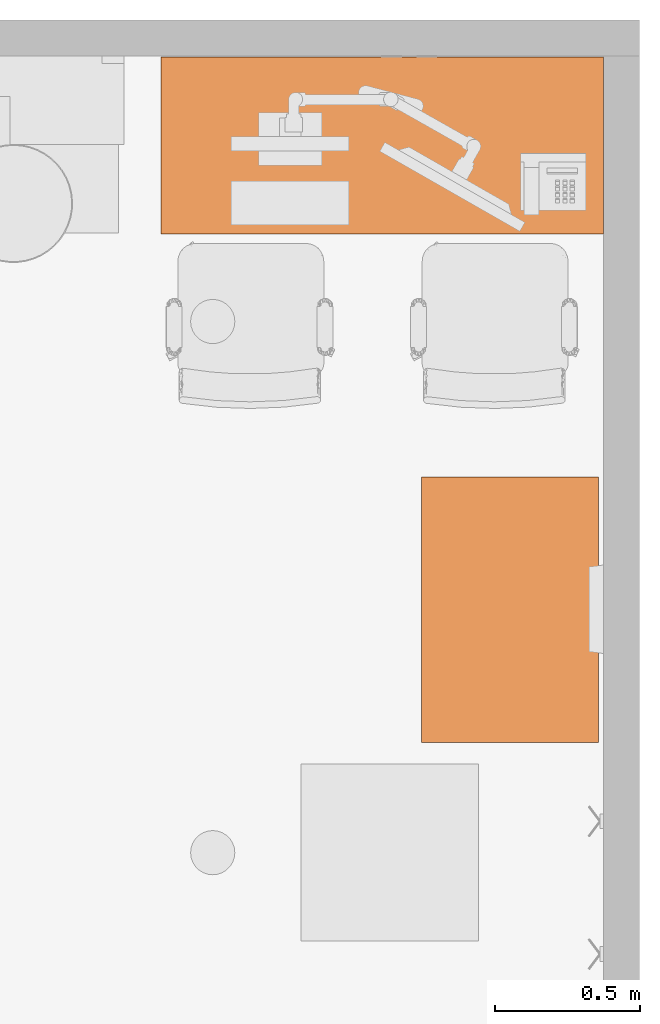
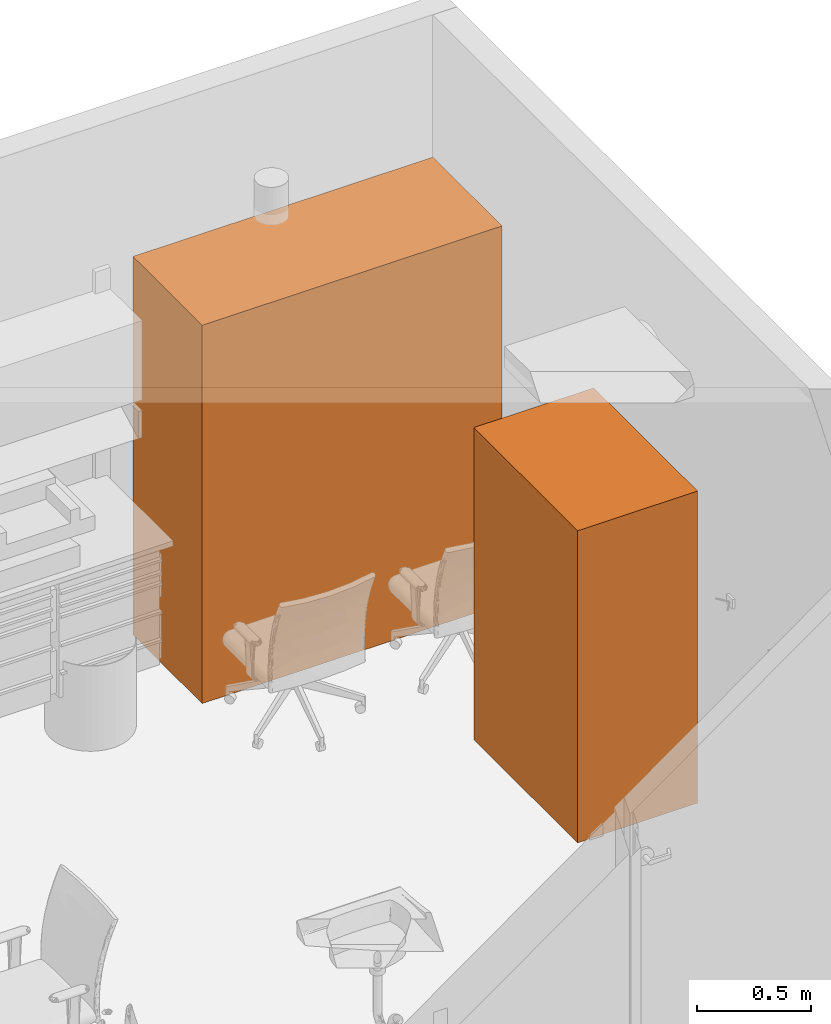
# One storey, part 6 of 15: 2 proxies.
"""IFC2X3 building model written with IfcOpenShell, lengths in feet."""

from ifc_helpers import new_model, entity, si_unit, converted_unit, derived_unit, direction, frame, origin, origin_2d_with_axis, place, context, subcontext, project, spatial, rectangle, extrude, face_set, surface_model, source, transform, mapped, material, type_object, type_shapes, element, save


model = new_model("IFC2X3")

# Units and contexts
model_context = context("Model", 3, precision=0.0001, world=origin(), true_north=direction((6.12303176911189e-17, 1.0)))
body_context = subcontext(model_context, "Body", "Model", "MODEL_VIEW")
ifc_project = project(units=[converted_unit("LENGTHUNIT", "FOOT", entity("IfcRatioMeasure", 0.3048), si_unit("LENGTHUNIT", "METRE"), dimensions=[1, 0, 0, 0, 0, 0, 0]), converted_unit("AREAUNIT", "SQUARE FOOT", entity("IfcRatioMeasure", 0.09290304), si_unit("AREAUNIT", "SQUARE_METRE"), dimensions=[2, 0, 0, 0, 0, 0, 0]), converted_unit("VOLUMEUNIT", "CUBIC FOOT", entity("IfcRatioMeasure", 0.028316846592), si_unit("VOLUMEUNIT", "CUBIC_METRE"), dimensions=[3, 0, 0, 0, 0, 0, 0]), converted_unit("PLANEANGLEUNIT", "DEGREE", entity("IfcRatioMeasure", 0.0174532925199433), si_unit("PLANEANGLEUNIT", "RADIAN"), dimensions=[0, 0, 0, 0, 0, 0, 0]), si_unit("MASSUNIT", "GRAM", prefix="KILO"), derived_unit("MASSDENSITYUNIT", [(si_unit("MASSUNIT", "GRAM", prefix="KILO"), 1), (si_unit("LENGTHUNIT", "METRE"), -3)]), si_unit("TIMEUNIT", "SECOND"), si_unit("FREQUENCYUNIT", "HERTZ"), si_unit("THERMODYNAMICTEMPERATUREUNIT", "DEGREE_CELSIUS"), derived_unit("THERMALTRANSMITTANCEUNIT", [(si_unit("MASSUNIT", "GRAM", prefix="KILO"), 1), (si_unit("THERMODYNAMICTEMPERATUREUNIT", "KELVIN"), -1), (si_unit("TIMEUNIT", "SECOND"), -3)]), derived_unit("VOLUMETRICFLOWRATEUNIT", [(si_unit("LENGTHUNIT", "METRE"), 3), (si_unit("TIMEUNIT", "SECOND"), -1)]), si_unit("ELECTRICCURRENTUNIT", "AMPERE"), si_unit("ELECTRICVOLTAGEUNIT", "VOLT"), si_unit("POWERUNIT", "WATT"), si_unit("FORCEUNIT", "NEWTON"), si_unit("ILLUMINANCEUNIT", "LUX"), si_unit("LUMINOUSFLUXUNIT", "LUMEN"), si_unit("LUMINOUSINTENSITYUNIT", "CANDELA"), derived_unit("USERDEFINED", [(si_unit("MASSUNIT", "GRAM", prefix="KILO"), -1), (si_unit("LENGTHUNIT", "METRE"), -2), (si_unit("TIMEUNIT", "SECOND"), 3), (si_unit("LUMINOUSFLUXUNIT", "LUMEN"), 1)]), derived_unit("LINEARVELOCITYUNIT", [(si_unit("LENGTHUNIT", "METRE"), 1), (si_unit("TIMEUNIT", "SECOND"), -1)]), si_unit("PRESSUREUNIT", "PASCAL"), derived_unit("USERDEFINED", [(si_unit("LENGTHUNIT", "METRE"), -2), (si_unit("MASSUNIT", "GRAM", prefix="KILO"), 1), (si_unit("TIMEUNIT", "SECOND"), -2)])], contexts=[model_context])

# Site, building, storey, space
site_placement = place(None, origin())
site = spatial("IfcSite", under=ifc_project, at=site_placement, Name="Default", CompositionType="ELEMENT")
building_placement = place(site_placement, origin())
building = spatial("IfcBuilding", under=site, at=building_placement, Name="EYE CLINIC:  OPTHALMOLOGY AND OPTOMETRY SERVICES (Ch. 233)", CompositionType="ELEMENT")
storey_placement = place(building_placement, origin())
storey = spatial("IfcBuildingStorey", under=building, at=storey_placement, Name="DATUM", CompositionType="ELEMENT", Elevation=0.0)
space_placement = place(storey_placement, origin())
space = spatial("IfcSpace", under=storey, at=space_placement, Name="(OPLV2)", CompositionType="ELEMENT", InteriorOrExteriorSpace="INTERNAL")

# Proxies
ifc_material = material(Name="EquipSpace")
building_element_proxy_type_1 = type_object("IfcBuildingElementProxyType", Name="E0214 - Worksurface, with Overhead Cab, Wall Mtd, 60 W (1)", PredefinedType="NOTDEFINED", material=ifc_material)
shared_shape_1 = source(origin(), body_context, "Body", "SurfaceModel", [
    surface_model("IfcFaceBasedSurfaceModel", [(2.41666666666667, 0.833333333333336, 2.88682705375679), (2.41666666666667, 0.831483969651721, 2.87277974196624), (2.41666666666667, 0.826061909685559, 2.85968973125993), (2.41666666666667, 0.817436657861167, 2.84844908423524), (2.41666666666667, 0.806196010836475, 2.83982383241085), (2.41666666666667, 0.793106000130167, 2.83440177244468), (2.41666666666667, 0.779058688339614, 2.83255240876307), (2.41666666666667, -0.583333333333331, 2.83255240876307), (2.41666666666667, -0.604901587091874, 2.82971289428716), (2.41666666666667, -0.624999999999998, 2.82138785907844), (2.41666666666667, -0.64225889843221, 2.80814464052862), (2.41666666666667, -0.655502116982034, 2.7908857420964), (2.41666666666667, -0.663827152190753, 2.77078732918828), (2.41666666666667, -0.666666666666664, 2.74921907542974), (2.41666666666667, -0.666666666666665, 2.14505240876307), (2.41666666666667, -0.671635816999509, 2.10730796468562), (2.41666666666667, -0.686204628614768, 2.0721357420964), (2.41666666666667, -0.70938026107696, 2.04193266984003), (2.41666666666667, -0.739583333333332, 2.01875703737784), (2.41666666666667, -0.774755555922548, 2.00418822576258), (2.41666666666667, -0.812499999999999, 1.99921907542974), (2.41666666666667, -0.916666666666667, 1.99921907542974), (2.41666666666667, -0.916666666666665, 2.91588574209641), (2.41666666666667, 0.833333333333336, 2.9158857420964), (2.5, -0.686204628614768, 2.0721357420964), (2.5, -0.671635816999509, 2.10730796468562), (2.5, -0.666666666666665, 2.14505240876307), (2.5, -0.666666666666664, 2.74921907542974), (2.5, -0.663827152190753, 2.77078732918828), (2.5, -0.655502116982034, 2.7908857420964), (2.5, -0.64225889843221, 2.80814464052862), (2.5, -0.624999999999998, 2.82138785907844), (2.5, -0.604901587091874, 2.82971289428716), (2.5, -0.583333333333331, 2.83255240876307), (2.5, 0.779058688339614, 2.83255240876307), (2.5, 0.793106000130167, 2.83440177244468), (2.5, 0.806196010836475, 2.83982383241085), (2.5, 0.817436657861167, 2.84844908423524), (2.5, 0.826061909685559, 2.85968973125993), (2.5, 0.831483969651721, 2.87277974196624), (2.5, 0.833333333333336, 2.88682705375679), (2.5, 0.833333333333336, 2.9158857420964), (2.5, -0.916666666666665, 2.91588574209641), (2.5, -0.916666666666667, 1.99921907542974), (2.5, -0.812499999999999, 1.99921907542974), (2.5, -0.774755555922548, 2.00418822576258), (2.5, -0.739583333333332, 2.01875703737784), (2.5, -0.70938026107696, 2.04193266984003), (-2.41666666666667, -0.686204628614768, 2.0721357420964), (-2.41666666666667, -0.671635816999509, 2.10730796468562), (-2.41666666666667, -0.666666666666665, 2.14505240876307), (-2.41666666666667, -0.666666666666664, 2.74921907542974), (-2.41666666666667, -0.663827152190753, 2.77078732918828), (-2.41666666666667, -0.655502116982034, 2.7908857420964), (-2.41666666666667, -0.64225889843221, 2.80814464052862), (-2.41666666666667, -0.624999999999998, 2.82138785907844), (-2.41666666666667, -0.604901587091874, 2.82971289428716), (-2.41666666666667, -0.583333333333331, 2.83255240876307), (-2.41666666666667, 0.779058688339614, 2.83255240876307), (-2.41666666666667, 0.793106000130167, 2.83440177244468), (-2.41666666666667, 0.806196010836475, 2.83982383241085), (-2.41666666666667, 0.817436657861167, 2.84844908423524), (-2.41666666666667, 0.826061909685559, 2.85968973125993), (-2.41666666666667, 0.831483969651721, 2.87277974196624), (-2.41666666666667, 0.833333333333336, 2.88682705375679), (-2.41666666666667, 0.833333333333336, 2.9158857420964), (-2.41666666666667, -0.916666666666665, 2.91588574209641), (-2.41666666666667, -0.916666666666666, 1.99921907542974), (-2.41666666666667, -0.812499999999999, 1.99921907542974), (-2.41666666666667, -0.774755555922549, 2.00418822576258), (-2.41666666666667, -0.739583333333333, 2.01875703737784), (-2.41666666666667, -0.709380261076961, 2.04193266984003), (-2.5, 0.833333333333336, 2.88682705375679), (-2.5, 0.831483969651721, 2.87277974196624), (-2.5, 0.826061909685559, 2.85968973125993), (-2.5, 0.817436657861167, 2.84844908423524), (-2.5, 0.806196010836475, 2.83982383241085), (-2.5, 0.793106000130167, 2.83440177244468), (-2.5, 0.779058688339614, 2.83255240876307), (-2.5, -0.583333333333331, 2.83255240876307), (-2.5, -0.604901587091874, 2.82971289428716), (-2.5, -0.624999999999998, 2.82138785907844), (-2.5, -0.64225889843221, 2.80814464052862), (-2.5, -0.655502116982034, 2.7908857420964), (-2.5, -0.663827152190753, 2.77078732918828), (-2.5, -0.666666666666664, 2.74921907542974), (-2.5, -0.666666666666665, 2.14505240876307), (-2.5, -0.671635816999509, 2.10730796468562), (-2.5, -0.686204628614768, 2.0721357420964), (-2.5, -0.709380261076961, 2.04193266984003), (-2.5, -0.739583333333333, 2.01875703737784), (-2.5, -0.774755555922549, 2.00418822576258), (-2.5, -0.812499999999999, 1.99921907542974), (-2.5, -0.916666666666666, 1.99921907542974), (-2.5, -0.916666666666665, 2.91588574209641), (-2.5, 0.833333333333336, 2.9158857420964), (2.5, 1.0, 2.99921907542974), (2.5, -0.916666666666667, 2.99921907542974), (2.5, -0.916666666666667, 2.91588574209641), (2.5, 1.0, 2.9158857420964), (-2.5, 1.0, 2.99921907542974), (-2.5, 1.0, 2.9158857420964), (-2.5, -0.916666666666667, 2.91588574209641), (-2.5, -0.916666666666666, 2.99921907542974), (0.0625000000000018, -0.0833333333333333, 4.62161490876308), (0.0625000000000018, -0.0833333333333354, 3.95494824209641), (0.0625000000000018, -0.916666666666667, 3.95494824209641), (0.0625000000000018, -0.916666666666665, 4.62161490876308), (2.41666666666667, -0.0833333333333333, 4.62161490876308), (2.41666666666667, -0.916666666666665, 4.62161490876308), (2.41666666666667, -0.916666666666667, 3.95494824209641), (2.41666666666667, -0.0833333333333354, 3.95494824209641), (2.35416666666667, -0.0833333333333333, 4.62161490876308), (2.35416666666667, -0.803690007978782, 4.62161490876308), (0.121853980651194, -0.803690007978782, 4.62161490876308), (0.121853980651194, -0.0833333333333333, 4.62161490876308), (0.121853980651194, -0.0833333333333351, 4.03828157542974), (2.35416666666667, -0.0833333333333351, 4.03828157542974), (-0.0625000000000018, -0.0833333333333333, 4.62161490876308), (-0.0625000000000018, -0.916666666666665, 4.62161490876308), (-0.0625000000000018, -0.916666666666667, 3.95494824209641), (-0.0625000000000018, -0.0833333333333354, 3.95494824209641), (-2.41666666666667, -0.0833333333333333, 4.62161490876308), (-2.41666666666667, -0.0833333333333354, 3.95494824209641), (-2.41666666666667, -0.916666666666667, 3.95494824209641), (-2.41666666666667, -0.916666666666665, 4.62161490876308), (-0.121853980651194, -0.0833333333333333, 4.62161490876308), (-0.121853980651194, -0.803690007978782, 4.62161490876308), (-2.35416666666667, -0.803690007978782, 4.62161490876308), (-2.35416666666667, -0.0833333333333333, 4.62161490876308), (-2.35416666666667, -0.0833333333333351, 4.03828157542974), (-0.121853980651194, -0.0833333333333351, 4.03828157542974), (-1.28125, 0.0833333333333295, 5.01744824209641), (-1.27983024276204, 0.0833333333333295, 5.00666411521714), (-1.27566772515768, 0.0833333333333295, 4.99661490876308), (-1.26904611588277, 0.0833333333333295, 4.98798545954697), (-1.26041666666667, 0.0833333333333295, 4.98136385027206), (-1.2503674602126, 0.0833333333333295, 4.9772013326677), (-1.23958333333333, 0.0833333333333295, 4.97578157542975), (-1.22879920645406, 0.0833333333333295, 4.9772013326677), (-1.21875, 0.0833333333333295, 4.98136385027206), (-1.21012055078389, 0.0833333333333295, 4.98798545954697), (-1.20349894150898, 0.0833333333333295, 4.99661490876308), (-1.19933642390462, 0.0833333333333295, 5.00666411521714), (-1.19791666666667, 0.0833333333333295, 5.01744824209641), (-1.19933642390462, 0.0833333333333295, 5.02823236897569), (-1.20349894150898, 0.0833333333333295, 5.03828157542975), (-1.21012055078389, 0.0833333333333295, 5.04691102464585), (-1.21875, 0.0833333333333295, 5.05353263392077), (-1.22879920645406, 0.0833333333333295, 5.05769515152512), (-1.23958333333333, 0.0833333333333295, 5.05911490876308), (-1.2503674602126, 0.0833333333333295, 5.05769515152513), (-1.26041666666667, 0.0833333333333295, 5.05353263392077), (-1.26904611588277, 0.0833333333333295, 5.04691102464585), (-1.27566772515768, 0.0833333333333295, 5.03828157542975), (-1.27983024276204, 0.0833333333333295, 5.02823236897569), (-1.28125, 0.109888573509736, 5.01744824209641), (-1.27983024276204, 0.109888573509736, 5.02823236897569), (-1.27566772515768, 0.109888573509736, 5.03828157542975), (-1.26904611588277, 0.109888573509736, 5.04691102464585), (-1.26041666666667, 0.109888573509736, 5.05353263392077), (-1.2503674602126, 0.109888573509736, 5.05769515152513), (-1.23958333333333, 0.109888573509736, 5.05911490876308), (-1.22879920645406, 0.109888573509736, 5.05769515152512), (-1.21875, 0.109888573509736, 5.05353263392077), (-1.21012055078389, 0.109888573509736, 5.04691102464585), (-1.20349894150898, 0.109888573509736, 5.03828157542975), (-1.19933642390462, 0.109888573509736, 5.02823236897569), (-1.19791666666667, 0.109888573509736, 5.01744824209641), (-1.19933642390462, 0.109888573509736, 5.00666411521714), (-1.20349894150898, 0.109888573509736, 4.99661490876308), (-1.21012055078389, 0.109888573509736, 4.98798545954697), (-1.21875, 0.109888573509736, 4.98136385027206), (-1.22879920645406, 0.109888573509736, 4.9772013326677), (-1.23958333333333, 0.109888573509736, 4.97578157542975), (-1.2503674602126, 0.109888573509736, 4.9772013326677), (-1.26041666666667, 0.109888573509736, 4.98136385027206), (-1.26904611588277, 0.109888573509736, 4.98798545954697), (-1.27566772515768, 0.109888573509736, 4.99661490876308), (-1.27983024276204, 0.109888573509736, 5.00666411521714), (1.28125, 0.0833333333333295, 5.01744824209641), (1.27983024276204, 0.0833333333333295, 5.02823236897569), (1.27566772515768, 0.0833333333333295, 5.03828157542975), (1.26904611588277, 0.0833333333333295, 5.04691102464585), (1.26041666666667, 0.0833333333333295, 5.05353263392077), (1.2503674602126, 0.0833333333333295, 5.05769515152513), (1.23958333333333, 0.0833333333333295, 5.05911490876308), (1.22879920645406, 0.0833333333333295, 5.05769515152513), (1.21875, 0.0833333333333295, 5.05353263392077), (1.21012055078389, 0.0833333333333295, 5.04691102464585), (1.20349894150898, 0.0833333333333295, 5.03828157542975), (1.19933642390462, 0.0833333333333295, 5.02823236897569), (1.19791666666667, 0.0833333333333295, 5.01744824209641), (1.19933642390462, 0.0833333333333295, 5.00666411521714), (1.20349894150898, 0.0833333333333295, 4.99661490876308), (1.21012055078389, 0.0833333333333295, 4.98798545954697), (1.21875, 0.0833333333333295, 4.98136385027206), (1.22879920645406, 0.0833333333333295, 4.9772013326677), (1.23958333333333, 0.0833333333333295, 4.97578157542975), (1.2503674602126, 0.0833333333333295, 4.9772013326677), (1.26041666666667, 0.0833333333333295, 4.98136385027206), (1.26904611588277, 0.0833333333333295, 4.98798545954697), (1.27566772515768, 0.0833333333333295, 4.99661490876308), (1.27983024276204, 0.0833333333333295, 5.00666411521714), (1.28125, 0.109888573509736, 5.01744824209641), (1.27983024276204, 0.109888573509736, 5.00666411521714), (1.27566772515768, 0.109888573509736, 4.99661490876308), (1.26904611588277, 0.109888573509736, 4.98798545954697), (1.26041666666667, 0.109888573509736, 4.98136385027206), (1.2503674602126, 0.109888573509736, 4.9772013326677), (1.23958333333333, 0.109888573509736, 4.97578157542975), (1.22879920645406, 0.109888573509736, 4.9772013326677), (1.21875, 0.109888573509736, 4.98136385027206), (1.21012055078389, 0.109888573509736, 4.98798545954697), (1.20349894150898, 0.109888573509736, 4.99661490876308), (1.19933642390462, 0.109888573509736, 5.00666411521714), (1.19791666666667, 0.109888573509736, 5.01744824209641), (1.19933642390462, 0.109888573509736, 5.02823236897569), (1.20349894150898, 0.109888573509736, 5.03828157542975), (1.21012055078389, 0.109888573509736, 5.04691102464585), (1.21875, 0.109888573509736, 5.05353263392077), (1.22879920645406, 0.109888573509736, 5.05769515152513), (1.23958333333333, 0.109888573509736, 5.05911490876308), (1.2503674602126, 0.109888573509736, 5.05769515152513), (1.26041666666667, 0.109888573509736, 5.05353263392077), (1.26904611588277, 0.109888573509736, 5.04691102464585), (1.27566772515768, 0.109888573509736, 5.03828157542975), (1.27983024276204, 0.109888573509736, 5.02823236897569), (2.5, -1.0, 6.66666666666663), (2.5, -0.916666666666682, 6.66666666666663), (2.35416666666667, -0.916666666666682, 6.66666666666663), (2.35416666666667, -1.0, 6.66666666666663), (2.5, -1.0, 0.0), (2.35416666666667, -1.0, 0.0), (2.35416666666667, -0.916666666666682, 0.0), (2.5, -0.916666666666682, 0.0), (0.0729166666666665, -1.0, 6.66666666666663), (0.0729166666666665, -0.916666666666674, 6.66666666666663), (-0.0729166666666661, -0.916666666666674, 6.66666666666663), (-0.0729166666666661, -1.0, 6.66666666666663), (0.0729166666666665, -1.0, 0.0), (-0.0729166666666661, -1.0, 0.0), (-0.0729166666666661, -0.916666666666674, 0.0), (0.0729166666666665, -0.916666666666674, 0.0), (2.41666666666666, -0.916666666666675, 6.37499999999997), (2.41666666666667, 0.0833333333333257, 6.37499999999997), (0.0624999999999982, 0.0833333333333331, 6.37499999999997), (0.0624999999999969, -0.916666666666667, 6.37499999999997), (2.41666666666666, -0.916666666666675, 4.95494824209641), (0.0624999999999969, -0.916666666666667, 4.95494824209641), (0.0624999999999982, 0.0833333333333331, 4.95494824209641), (2.41666666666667, 0.0833333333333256, 4.95494824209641), (-0.0625000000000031, -0.916666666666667, 6.37499999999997), (-0.0625, 0.0833333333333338, 6.37499999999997), (-2.41666666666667, 0.0833333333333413, 6.37499999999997), (-2.41666666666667, -0.916666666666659, 6.37499999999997), (-0.0625000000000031, -0.916666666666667, 4.95494824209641), (-2.41666666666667, -0.916666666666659, 4.95494824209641), (-2.41666666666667, 0.0833333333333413, 4.95494824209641), (-0.0625, 0.0833333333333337, 4.95494824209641), (-2.35416666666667, -1.0, 6.66666666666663), (-2.35416666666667, -0.916666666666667, 6.66666666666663), (-2.5, -0.916666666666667, 6.66666666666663), (-2.5, -1.0, 6.66666666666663), (-2.35416666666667, -1.0, 0.0), (-2.5, -1.0, 0.0), (-2.5, -0.916666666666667, 0.0), (-2.35416666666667, -0.916666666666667, 0.0)], [face_set([[[0, 1, 2, 3, 4, 5, 6, 7, 8, 9, 10, 11, 12, 13, 14, 15, 16, 17, 18, 19, 20, 21, 22, 23]], [[24, 25, 26, 27, 28, 29, 30, 31, 32, 33, 34, 35, 36, 37, 38, 39, 40, 41, 42, 43, 44, 45, 46, 47]], [[0, 23, 41, 40]], [[23, 22, 42, 41]], [[22, 21, 43, 42]], [[21, 20, 44, 43]], [[15, 14, 26, 25]], [[16, 15, 25, 24]], [[17, 16, 24, 47]], [[47, 46, 18, 17]], [[18, 46, 45, 19]], [[19, 45, 44, 20]], [[14, 13, 27, 26]], [[8, 7, 33, 32]], [[9, 8, 32, 31]], [[30, 10, 9, 31]], [[27, 13, 12, 28]], [[28, 12, 11, 29]], [[29, 11, 10, 30]], [[7, 6, 34, 33]], [[1, 0, 40, 39]], [[2, 1, 39, 38]], [[2, 38, 37, 3]], [[4, 36, 35, 5]], [[5, 35, 34, 6]], [[3, 37, 36, 4]]]), face_set([[[48, 49, 50, 51, 52, 53, 54, 55, 56, 57, 58, 59, 60, 61, 62, 63, 64, 65, 66, 67, 68, 69, 70, 71]], [[72, 73, 74, 75, 76, 77, 78, 79, 80, 81, 82, 83, 84, 85, 86, 87, 88, 89, 90, 91, 92, 93, 94, 95]], [[65, 64, 72, 95]], [[66, 65, 95, 94]], [[67, 66, 94, 93]], [[68, 67, 93, 92]], [[69, 68, 92, 91]], [[70, 69, 91, 90]], [[71, 70, 90, 89]], [[48, 71, 89, 88]], [[49, 48, 88, 87]], [[50, 49, 87, 86]], [[51, 50, 86, 85]], [[52, 51, 85, 84]], [[53, 52, 84, 83]], [[82, 54, 53, 83]], [[56, 55, 81, 80]], [[57, 56, 80, 79]], [[81, 55, 54, 82]], [[58, 57, 79, 78]], [[59, 58, 78, 77]], [[61, 60, 76, 75]], [[60, 59, 77, 76]], [[62, 74, 73, 63]], [[63, 73, 72, 64]], [[61, 75, 74, 62]]]), face_set([[[96, 97, 98, 99]], [[100, 101, 102, 103]], [[97, 96, 100, 103]], [[98, 97, 103, 102]], [[99, 98, 102, 101]], [[96, 99, 101, 100]]]), face_set([[[104, 105, 106, 107]], [[108, 109, 110, 111]], [[104, 107, 109, 108, 112, 113, 114, 115]], [[107, 106, 110, 109]], [[106, 105, 111, 110]], [[105, 104, 115, 116, 117, 112, 108, 111]], [[114, 116, 115]], [[117, 113, 112]], [[116, 114, 113, 117]]]), face_set([[[118, 119, 120, 121]], [[122, 123, 124, 125]], [[119, 118, 126, 127, 128, 129, 122, 125]], [[120, 119, 125, 124]], [[121, 120, 124, 123]], [[118, 121, 123, 122, 129, 130, 131, 126]], [[131, 127, 126]], [[128, 130, 129]], [[127, 131, 130, 128]]]), face_set([[[132, 133, 134, 135, 136, 137, 138, 139, 140, 141, 142, 143, 144, 145, 146, 147, 148, 149, 150, 151, 152, 153, 154, 155]], [[156, 157, 158, 159, 160, 161, 162, 163, 164, 165, 166, 167, 168, 169, 170, 171, 172, 173, 174, 175, 176, 177, 178, 179]], [[156, 179, 133, 132]], [[179, 178, 134, 133]], [[177, 176, 136, 135]], [[178, 177, 135, 134]], [[176, 175, 137, 136]], [[138, 137, 175, 174]], [[174, 173, 139, 138]], [[173, 172, 140, 139]], [[171, 170, 142, 141]], [[172, 171, 141, 140]], [[170, 169, 143, 142]], [[144, 143, 169, 168]], [[168, 167, 145, 144]], [[167, 166, 146, 145]], [[165, 164, 148, 147]], [[166, 165, 147, 146]], [[164, 163, 149, 148]], [[150, 149, 163, 162]], [[162, 161, 151, 150]], [[161, 160, 152, 151]], [[159, 158, 154, 153]], [[160, 159, 153, 152]], [[158, 157, 155, 154]], [[132, 155, 157, 156]]]), face_set([[[180, 181, 182, 183, 184, 185, 186, 187, 188, 189, 190, 191, 192, 193, 194, 195, 196, 197, 198, 199, 200, 201, 202, 203]], [[204, 205, 206, 207, 208, 209, 210, 211, 212, 213, 214, 215, 216, 217, 218, 219, 220, 221, 222, 223, 224, 225, 226, 227]], [[216, 215, 193, 192]], [[215, 214, 194, 193]], [[213, 212, 196, 195]], [[214, 213, 195, 194]], [[212, 211, 197, 196]], [[198, 197, 211, 210]], [[210, 209, 199, 198]], [[209, 208, 200, 199]], [[207, 206, 202, 201]], [[208, 207, 201, 200]], [[206, 205, 203, 202]], [[180, 203, 205, 204]], [[204, 227, 181, 180]], [[227, 226, 182, 181]], [[225, 224, 184, 183]], [[226, 225, 183, 182]], [[224, 223, 185, 184]], [[186, 185, 223, 222]], [[222, 221, 187, 186]], [[221, 220, 188, 187]], [[219, 218, 190, 189]], [[220, 219, 189, 188]], [[218, 217, 191, 190]], [[192, 191, 217, 216]]]), face_set([[[228, 229, 230, 231]], [[232, 233, 234, 235]], [[229, 228, 232, 235]], [[230, 229, 235, 234]], [[231, 230, 234, 233]], [[228, 231, 233, 232]]]), face_set([[[236, 237, 238, 239]], [[240, 241, 242, 243]], [[237, 236, 240, 243]], [[238, 237, 243, 242]], [[239, 238, 242, 241]], [[236, 239, 241, 240]]]), face_set([[[244, 245, 246, 247]], [[248, 249, 250, 251]], [[245, 244, 248, 251]], [[246, 245, 251, 250]], [[247, 246, 250, 249]], [[244, 247, 249, 248]]]), face_set([[[252, 253, 254, 255]], [[256, 257, 258, 259]], [[253, 252, 256, 259]], [[254, 253, 259, 258]], [[255, 254, 258, 257]], [[252, 255, 257, 256]]]), face_set([[[260, 261, 262, 263]], [[264, 265, 266, 267]], [[261, 260, 264, 267]], [[262, 261, 267, 266]], [[263, 262, 266, 265]], [[260, 263, 265, 264]]])]),
    surface_model("IfcFaceBasedSurfaceModel", [(-2.5, 1.0, 6.66666666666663), (-2.5, 0.0, 6.66666666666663), (-2.5, -1.0, 6.66666666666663), (2.5, -1.0, 6.66666666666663), (2.5, 1.0, 6.66666666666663), (-2.5, 1.0, 0.0), (2.5, 1.0, 0.0), (2.5, -1.0, 0.0), (-2.5, -1.0, 0.0), (-2.5, 0.0, 0.0), (-0.121853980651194, -0.803690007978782, 4.62161490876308), (-0.121853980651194, -0.0833333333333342, 4.03828157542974), (-0.121853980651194, -0.0833333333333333, 4.62161490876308), (-2.35416666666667, -0.803690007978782, 4.62161490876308), (-2.35416666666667, -0.0833333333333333, 4.62161490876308), (-2.35416666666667, -0.0833333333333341, 4.03828157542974), (0.121853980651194, -0.803690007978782, 4.62161490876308), (0.121853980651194, -0.0833333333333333, 4.62161490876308), (0.121853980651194, -0.0833333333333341, 4.03828157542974), (2.35416666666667, -0.803690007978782, 4.62161490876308), (2.35416666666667, -0.0833333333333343, 4.03828157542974), (2.35416666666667, -0.0833333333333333, 4.62161490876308)], [face_set([[[0, 1, 2, 3, 4]], [[5, 6, 7, 8, 9]], [[1, 0, 5, 9]], [[2, 1, 9, 8]], [[3, 2, 8, 7]], [[4, 3, 7, 6]], [[0, 4, 6, 5]]]), face_set([[[10, 11, 12]], [[13, 14, 15]], [[10, 11, 15, 13]], [[11, 15, 14, 12]], [[12, 14, 13, 10]]]), face_set([[[16, 17, 18]], [[19, 20, 21]], [[18, 16, 19, 20]], [[17, 21, 20, 18]], [[16, 19, 21, 17]]])]),
])
type_shapes(building_element_proxy_type_1, [shared_shape_1])
proxy_1_placement = place(space_placement, frame((347.139769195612, 10.2972090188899, 0.0), z_axis=(0.0, 0.0, 1.0), x_axis=(-1.0, 0.0, 0.0)))
element("IfcBuildingElementProxy", 1, at=proxy_1_placement, inside=space, type_object=building_element_proxy_type_1, material=ifc_material, Name="E0214 - Worksurface, with Overhead Cab, Wall Mtd, 60 W:E0214 - Worksurface, with Overhead Cab, Wall Mtd, 60 W (1)", ObjectType="E0214 - Worksurface, with Overhead Cab, Wall Mtd, 60 W (1)", context=body_context, shape_type="MappedRepresentation", body=[
    mapped(shared_shape_1, transform((0.0, 0.0, 0.0), scale=1.0)),
])
building_element_proxy_type_2 = type_object("IfcBuildingElementProxyType", Name="E0820 - Module, Storage, 2-Drw Lateral File & Bookcase 24 D x 36 W x 66 H", PredefinedType="NOTDEFINED")
shared_shape_2 = source(origin(), body_context, "Body", "SweptSolid", [
    extrude(rectangle(XDim=3.0, YDim=2.0, at=origin_2d_with_axis()), frame((0.00656671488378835, -0.00264199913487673, 0.0), z_axis=(0.0, 0.0, 1.0), x_axis=(-1.0, 0.0, 0.0)), (0.0, 0.0, 1.0), 5.5),
])
type_shapes(building_element_proxy_type_2, [shared_shape_2])
proxy_2_placement = place(space_placement, frame((348.583458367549, 5.05762568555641, 0.0), z_axis=(0.0, 0.0, 1.0), x_axis=(0.0, -1.0, 0.0)))
element("IfcBuildingElementProxy", 2, at=proxy_2_placement, inside=space, type_object=building_element_proxy_type_2, Name="E0820 - Module, Storage, 2-Drw Lateral File & Bookcase 24 D x 36 W x 66 H:E0820 - Module, Storage, 2-Drw Lateral File & Bookcase 24 D x 36 W x 66 H", ObjectType="E0820 - Module, Storage, 2-Drw Lateral File & Bookcase 24 D x 36 W x 66 H", context=body_context, shape_type="MappedRepresentation", body=[
    mapped(shared_shape_2, transform((0.0, 0.0, 0.0), scale=1.0)),
])

save(model, "model.ifc")
